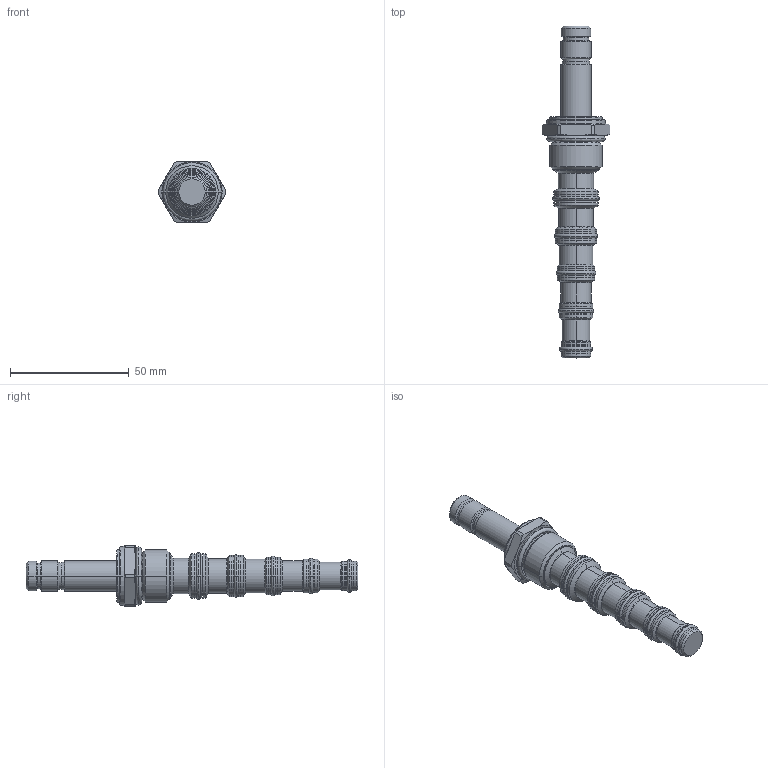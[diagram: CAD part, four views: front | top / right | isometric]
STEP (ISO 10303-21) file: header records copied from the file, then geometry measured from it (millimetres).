
FILE_DESCRIPTION((''),'2;1');
FILE_NAME('5008810_SW0001','2009-03-05T',('JCS'),(''),'PRO/ENGINEER BY PARAMETRIC TECHNOLOGY CORPORATION, 2008010','PRO/ENGINEER BY PARAMETRIC TECHNOLOGY CORPORATION, 2008010','');
FILE_SCHEMA(('CONFIG_CONTROL_DESIGN'));
Length unit declared in the file: inch
Products named in the file (1): 5008810_SW0001
Bounding box: 28.57 x 140.03 x 25.36 mm (x, y, z)
Volume: 27765.7 mm3; surface area: 11671.4 mm2
Topology: 6 solids, 6 shells, 287 faces, 602 edges, 354 vertices
Faces by surface type: cylinder 90, cone 56, torus 48, revolution 48, plane 45
Entity records: 8602 total; most frequent: CARTESIAN_POINT 2261, DIRECTION 1434, ORIENTED_EDGE 1204, AXIS2_PLACEMENT_3D 617, EDGE_CURVE 602, CIRCLE 378, VERTEX_POINT 354, EDGE_LOOP 324
